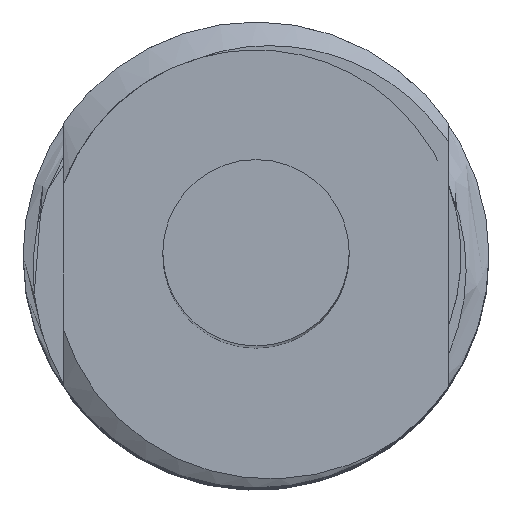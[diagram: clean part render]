
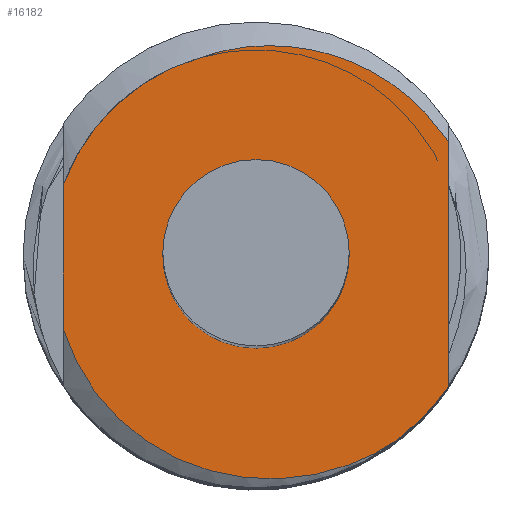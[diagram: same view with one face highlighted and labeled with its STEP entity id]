
A CAD part, top view. The second image highlights one B-rep face of the part: STEP entity #16182.
In plain terms, the highlighted planar face has unit normal (0, 0, 1).
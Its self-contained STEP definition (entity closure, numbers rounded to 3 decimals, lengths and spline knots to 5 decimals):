
#7741 = VERTEX_POINT ( 'NONE', #54824 ) ;
#9288 = EDGE_CURVE ( 'NONE', #7741, #9289, #55066, .T. ) ;
#9289 = VERTEX_POINT ( 'NONE', #55061 ) ;
#16182 = ADVANCED_FACE ( 'NONE', ( #55171, #55170 ), #55160, .F. ) ;
#16183 = ORIENTED_EDGE ( 'NONE', *, *, #16184, .T. ) ;
#16184 = EDGE_CURVE ( 'NONE', #16185, #16186, #55158, .T. ) ;
#16185 = VERTEX_POINT ( 'NONE', #55151 ) ;
#16186 = VERTEX_POINT ( 'NONE', #55150 ) ;
#16187 = ORIENTED_EDGE ( 'NONE', *, *, #16188, .T. ) ;
#16188 = EDGE_CURVE ( 'NONE', #16186, #16189, #55149, .T. ) ;
#16189 = VERTEX_POINT ( 'NONE', #55148 ) ;
#16190 = ORIENTED_EDGE ( 'NONE', *, *, #16213, .T. ) ;
#16213 = EDGE_CURVE ( 'NONE', #16189, #16214, #55234, .T. ) ;
#16214 = VERTEX_POINT ( 'NONE', #55233 ) ;
#16215 = ORIENTED_EDGE ( 'NONE', *, *, #16216, .F. ) ;
#16216 = EDGE_CURVE ( 'NONE', #16217, #16214, #55232, .T. ) ;
#16217 = VERTEX_POINT ( 'NONE', #55218 ) ;
#16221 = EDGE_LOOP ( 'NONE', ( #16183, #16187, #16190, #16215, #16298, #16301 ) ) ;
#16298 = ORIENTED_EDGE ( 'NONE', *, *, #16299, .T. ) ;
#16299 = EDGE_CURVE ( 'NONE', #16217, #16300, #55526, .T. ) ;
#16300 = VERTEX_POINT ( 'NONE', #55525 ) ;
#16301 = ORIENTED_EDGE ( 'NONE', *, *, #16302, .F. ) ;
#16302 = EDGE_CURVE ( 'NONE', #16185, #16300, #55521, .T. ) ;
#16303 = EDGE_LOOP ( 'NONE', ( #16304, #16306 ) ) ;
#16304 = ORIENTED_EDGE ( 'NONE', *, *, #16305, .F. ) ;
#16305 = EDGE_CURVE ( 'NONE', #9289, #7741, #55517, .T. ) ;
#16306 = ORIENTED_EDGE ( 'NONE', *, *, #9288, .F. ) ;
#54824 = CARTESIAN_POINT ( 'NONE',  ( 0.075, 0., 1.02 ) ) ;
#55061 = CARTESIAN_POINT ( 'NONE',  ( -0.075, 0., 1.02 ) ) ;
#55062 = DIRECTION ( 'NONE',  ( -1., 0., 0. ) ) ;
#55063 = DIRECTION ( 'NONE',  ( 0., 0., 1. ) ) ;
#55064 = CARTESIAN_POINT ( 'NONE',  ( 0., 0., 1.02 ) ) ;
#55065 = AXIS2_PLACEMENT_3D ( 'NONE', #55064, #55063, #55062 ) ;
#55066 = CIRCLE ( 'NONE', #55065, 0.075 ) ;
#55148 = CARTESIAN_POINT ( 'NONE',  ( -0.04399, 0.15897, 1.02 ) ) ;
#55149 = B_SPLINE_CURVE_WITH_KNOTS ( 'NONE', 3,
 ( #55197, #55196, #55195, #55194, #55193, #55192, #55191, #55190, #55189, #55188 ),
 .UNSPECIFIED., .F., .F.,
 ( 4, 2, 2, 2, 4 ),
 ( 0., 0.00143, 0.00286, 0.00429, 0.00572 ),
 .UNSPECIFIED. ) ;
#55150 = CARTESIAN_POINT ( 'NONE',  ( 0.155, 0.09133, 1.02 ) ) ;
#55151 = CARTESIAN_POINT ( 'NONE',  ( 0.155, -0.1055, 1.02 ) ) ;
#55152 = DIRECTION ( 'NONE',  ( 0., 1., 0. ) ) ;
#55153 = VECTOR ( 'NONE', #55152, 39.37008 ) ;
#55154 = CARTESIAN_POINT ( 'NONE',  ( 0.155, -0.19566, 1.02 ) ) ;
#55155 = DIRECTION ( 'NONE',  ( -1., 0., 0. ) ) ;
#55156 = DIRECTION ( 'NONE',  ( 0., 0., -1. ) ) ;
#55157 = AXIS2_PLACEMENT_3D ( 'NONE', #55159, #55156, #55155 ) ;
#55158 = LINE ( 'NONE', #55154, #55153 ) ;
#55159 = CARTESIAN_POINT ( 'NONE',  ( -0.155, -0.19566, 1.02 ) ) ;
#55160 = PLANE ( 'NONE',  #55157 ) ;
#55170 = FACE_BOUND ( 'NONE', #16303, .T. ) ;
#55171 = FACE_OUTER_BOUND ( 'NONE', #16221, .T. ) ;
#55188 = CARTESIAN_POINT ( 'NONE',  ( -0.04399, 0.15897, 1.02 ) ) ;
#55189 = CARTESIAN_POINT ( 'NONE',  ( -0.02606, 0.16533, 1.02 ) ) ;
#55190 = CARTESIAN_POINT ( 'NONE',  ( -0.00753, 0.16841, 1.02 ) ) ;
#55191 = CARTESIAN_POINT ( 'NONE',  ( 0.03046, 0.16834, 1.02 ) ) ;
#55192 = CARTESIAN_POINT ( 'NONE',  ( 0.04894, 0.16525, 1.02 ) ) ;
#55193 = CARTESIAN_POINT ( 'NONE',  ( 0.08489, 0.15293, 1.02 ) ) ;
#55194 = CARTESIAN_POINT ( 'NONE',  ( 0.10142, 0.14403, 1.02 ) ) ;
#55195 = CARTESIAN_POINT ( 'NONE',  ( 0.13149, 0.12077, 1.02 ) ) ;
#55196 = CARTESIAN_POINT ( 'NONE',  ( 0.14431, 0.10704, 1.02 ) ) ;
#55197 = CARTESIAN_POINT ( 'NONE',  ( 0.155, 0.09133, 1.02 ) ) ;
#55218 = CARTESIAN_POINT ( 'NONE',  ( -0.155, -0.05969, 1.02 ) ) ;
#55219 = DIRECTION ( 'NONE',  ( 0., 1., 0. ) ) ;
#55220 = CARTESIAN_POINT ( 'NONE',  ( -0.155, 0.05641, 1.02 ) ) ;
#55221 = CARTESIAN_POINT ( 'NONE',  ( -0.15049, 0.0688, 1.02 ) ) ;
#55222 = CARTESIAN_POINT ( 'NONE',  ( -0.14448, 0.08064, 1.02 ) ) ;
#55223 = CARTESIAN_POINT ( 'NONE',  ( -0.13002, 0.10233, 1.02 ) ) ;
#55224 = CARTESIAN_POINT ( 'NONE',  ( -0.1216, 0.11223, 1.02 ) ) ;
#55225 = CARTESIAN_POINT ( 'NONE',  ( -0.10228, 0.13008, 1.02 ) ) ;
#55226 = CARTESIAN_POINT ( 'NONE',  ( -0.09169, 0.13773, 1.02 ) ) ;
#55227 = CARTESIAN_POINT ( 'NONE',  ( -0.06896, 0.1504, 1.02 ) ) ;
#55228 = CARTESIAN_POINT ( 'NONE',  ( -0.05669, 0.15546, 1.02 ) ) ;
#55229 = CARTESIAN_POINT ( 'NONE',  ( -0.04399, 0.15897, 1.02 ) ) ;
#55230 = VECTOR ( 'NONE', #55219, 39.37008 ) ;
#55231 = CARTESIAN_POINT ( 'NONE',  ( -0.155, -0.19566, 1.02 ) ) ;
#55232 = LINE ( 'NONE', #55231, #55230 ) ;
#55233 = CARTESIAN_POINT ( 'NONE',  ( -0.155, 0.05641, 1.02 ) ) ;
#55234 = B_SPLINE_CURVE_WITH_KNOTS ( 'NONE', 3,
 ( #55229, #55228, #55227, #55226, #55225, #55224, #55223, #55222, #55221, #55220 ),
 .UNSPECIFIED., .F., .F.,
 ( 4, 2, 2, 2, 4 ),
 ( 0., 0.001, 0.002, 0.00301, 0.00401 ),
 .UNSPECIFIED. ) ;
#55503 = CARTESIAN_POINT ( 'NONE',  ( -0.00977, -0.17919, 1.02 ) ) ;
#55504 = CARTESIAN_POINT ( 'NONE',  ( -0.01653, -0.17827, 1.02 ) ) ;
#55505 = CARTESIAN_POINT ( 'NONE',  ( -0.02996, -0.17562, 1.02 ) ) ;
#55506 = CARTESIAN_POINT ( 'NONE',  ( -0.03668, -0.17389, 1.02 ) ) ;
#55507 = CARTESIAN_POINT ( 'NONE',  ( -0.05633, -0.16754, 1.02 ) ) ;
#55508 = CARTESIAN_POINT ( 'NONE',  ( -0.06874, -0.16185, 1.02 ) ) ;
#55509 = CARTESIAN_POINT ( 'NONE',  ( -0.08631, -0.15115, 1.02 ) ) ;
#55510 = CARTESIAN_POINT ( 'NONE',  ( -0.09203, -0.1472, 1.02 ) ) ;
#55511 = CARTESIAN_POINT ( 'NONE',  ( -0.10284, -0.13872, 1.02 ) ) ;
#55512 = CARTESIAN_POINT ( 'NONE',  ( -0.10797, -0.13419, 1.02 ) ) ;
#55513 = CARTESIAN_POINT ( 'NONE',  ( -0.11766, -0.12456, 1.02 ) ) ;
#55514 = CARTESIAN_POINT ( 'NONE',  ( -0.12223, -0.11947, 1.02 ) ) ;
#55515 = CARTESIAN_POINT ( 'NONE',  ( -0.13077, -0.10866, 1.02 ) ) ;
#55516 = CARTESIAN_POINT ( 'NONE',  ( -0.13472, -0.10296, 1.02 ) ) ;
#55517 = CIRCLE ( 'NONE', #55551, 0.075 ) ;
#55518 = DIRECTION ( 'NONE',  ( -1., 0., 0. ) ) ;
#55519 = DIRECTION ( 'NONE',  ( 0., 0., -1. ) ) ;
#55520 = AXIS2_PLACEMENT_3D ( 'NONE', #55527, #55519, #55518 ) ;
#55521 = CIRCLE ( 'NONE', #55520, 0.1875 ) ;
#55522 = CARTESIAN_POINT ( 'NONE',  ( -0.14536, -0.08539, 1.02 ) ) ;
#55523 = CARTESIAN_POINT ( 'NONE',  ( -0.15095, -0.07293, 1.02 ) ) ;
#55524 = CARTESIAN_POINT ( 'NONE',  ( -0.155, -0.05969, 1.02 ) ) ;
#55525 = CARTESIAN_POINT ( 'NONE',  ( 0.11436, -0.14859, 1.02 ) ) ;
#55526 = B_SPLINE_CURVE_WITH_KNOTS ( 'NONE', 3,
 ( #55524, #55523, #55522, #55516, #55515, #55514, #55513, #55512, #55511, #55510, #55509, #55508, #55507, #55506, #55505, #55504, #55503, #55558, #55557, #55556, #55555, #55554, #55553, #55552 ),
 .UNSPECIFIED., .F., .F.,
 ( 4, 2, 2, 2, 2, 2, 2, 2, 2, 2, 2, 4 ),
 ( 0., 0.00104, 0.00156, 0.00208, 0.0026, 0.00312, 0.00416, 0.00468, 0.0052, 0.00624, 0.00728, 0.00832 ),
 .UNSPECIFIED. ) ;
#55527 = CARTESIAN_POINT ( 'NONE',  ( 0., 0., 1.02 ) ) ;
#55548 = DIRECTION ( 'NONE',  ( -1., 0., 0. ) ) ;
#55549 = DIRECTION ( 'NONE',  ( 0., 0., 1. ) ) ;
#55550 = CARTESIAN_POINT ( 'NONE',  ( 0., 0., 1.02 ) ) ;
#55551 = AXIS2_PLACEMENT_3D ( 'NONE', #55550, #55549, #55548 ) ;
#55552 = CARTESIAN_POINT ( 'NONE',  ( 0.11436, -0.14859, 1.02 ) ) ;
#55553 = CARTESIAN_POINT ( 'NONE',  ( 0.10291, -0.15634, 1.02 ) ) ;
#55554 = CARTESIAN_POINT ( 'NONE',  ( 0.09061, -0.16279, 1.02 ) ) ;
#55555 = CARTESIAN_POINT ( 'NONE',  ( 0.06485, -0.17279, 1.02 ) ) ;
#55556 = CARTESIAN_POINT ( 'NONE',  ( 0.05164, -0.17627, 1.02 ) ) ;
#55557 = CARTESIAN_POINT ( 'NONE',  ( 0.02458, -0.18027, 1.02 ) ) ;
#55558 = CARTESIAN_POINT ( 'NONE',  ( 0.01065, -0.18077, 1.02 ) ) ;
